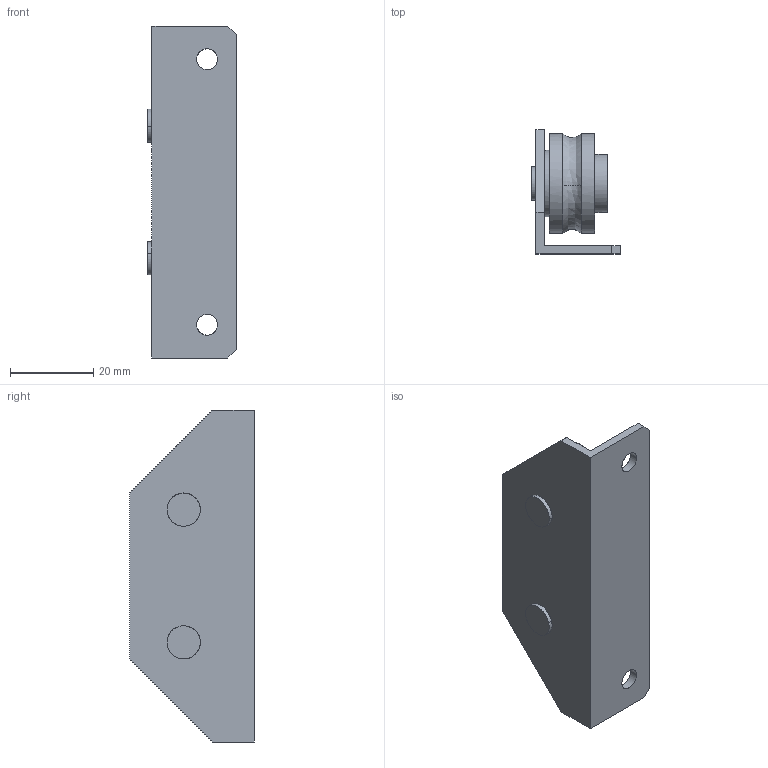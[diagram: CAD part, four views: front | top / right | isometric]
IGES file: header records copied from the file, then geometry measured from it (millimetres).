
Global section: file name: No Iges File Name specified; native system: AutoDesk Inventor R11.0; preprocessor: AutoDesk Inventor Iges Exporter R11.0; author: No Author specified; organization: No Organization specified; date: 20190511.103849; units: millimetre
Bounding box: 21.3 x 30 x 80 mm (x, y, z)
Surface area: 11313.7 mm2 (no closed solid volume)
Topology: 0 solids, 0 shells, 54 faces, 380 edges, 380 vertices
Faces by surface type: bspline 54
